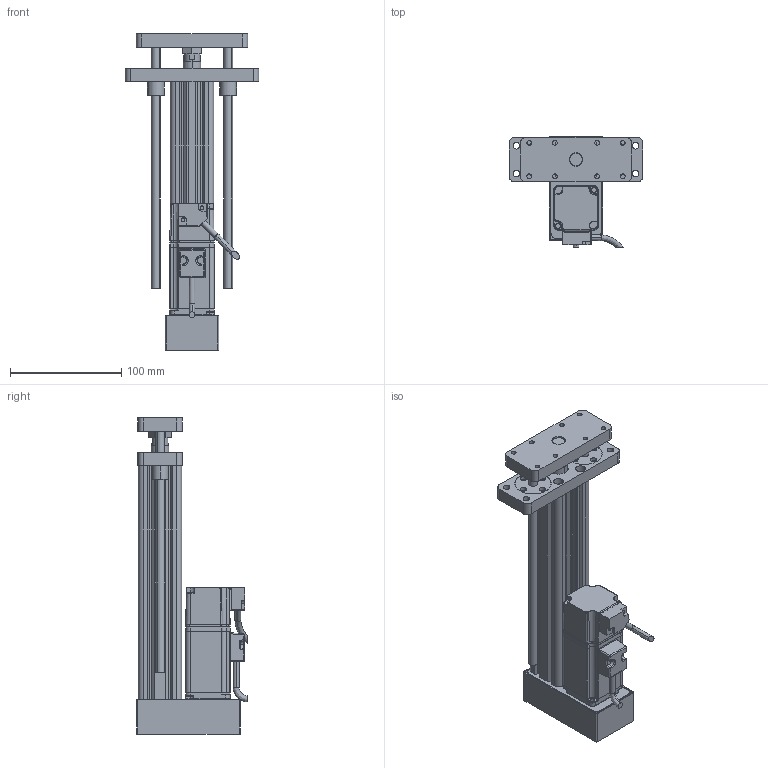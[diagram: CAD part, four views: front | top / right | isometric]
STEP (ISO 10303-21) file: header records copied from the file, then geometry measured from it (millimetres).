
FILE_DESCRIPTION (( 'STEP AP214' ), '1' );
FILE_NAME ('039-S150-D02-B-M3-C5-2.STEP', '2021-02-26T00:51:30', ( '' ), ( '' ), 'SwSTEP 2.0', 'SolidWorks 2018', '' );
FILE_SCHEMA (( 'AUTOMOTIVE_DESIGN' ));
Length unit declared in the file: millimetre
Products named in the file (11): CMC039-FL; CMC039-DB; CMC039-XT; LME01-d8; CMC039-GT; ECMA-CX0401ES-40框號系列機種-100W低慣量系列; CMC039-DT; 039-S150-D02-B-M3-C5-2; CMC039-DZ; GB／T6172．1-2000六角薄螺母A级和B级M12; CMC039-LJB
Assembly tree (12 placements, depth 2):
  039-S150-D02-B-M3-C5-2
    CMC039-GT
    CMC039-LJB
    CMC039-XT
    CMC039-FL
    CMC039-DT
    ECMA-CX0401ES-40框號系列機種-100W低慣量系列
    LME01-d8  x2
    CMC039-DB
    GB／T6172．1-2000六角薄螺母A级和B级M12
    CMC039-DZ  x2
Bounding box: 120 x 99.39 x 284 mm (x, y, z)
Volume: 526998.9 mm3; surface area: 186137 mm2
Topology: 12 solids, 20 shells, 766 faces, 1956 edges, 1223 vertices
Faces by surface type: cylinder 336, plane 275, bspline 88, cone 67
Entity records: 28536 total; most frequent: CARTESIAN_POINT 11352, ORIENTED_EDGE 3654, DIRECTION 3059, EDGE_CURVE 1827, VERTEX_POINT 1164, AXIS2_PLACEMENT_3D 1094, LINE 871, VECTOR 871
